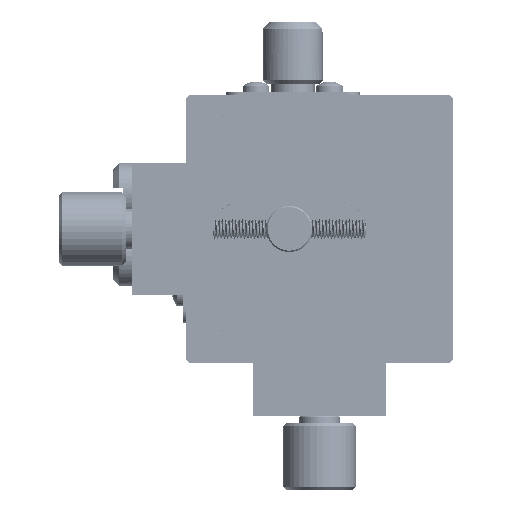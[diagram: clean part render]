
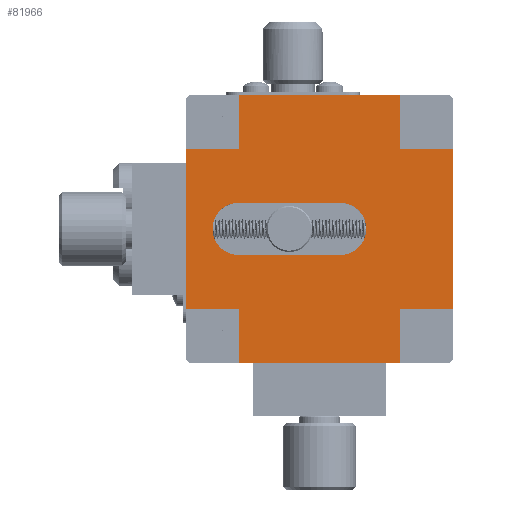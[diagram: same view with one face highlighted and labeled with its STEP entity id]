
A CAD part, top view. The second image highlights one B-rep face of the part: STEP entity #81966.
In plain terms, the highlighted planar face has unit normal (0, 0, 1).
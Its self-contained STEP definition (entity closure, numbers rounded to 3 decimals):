
#1501 = LINE ( 'NONE', #83391, #125231 ) ;
#1696 = CARTESIAN_POINT ( 'NONE',  ( -0.002, -7.998, 49.8 ) ) ;
#3234 = CARTESIAN_POINT ( 'NONE',  ( -0.002, 24.002, 49.8 ) ) ;
#3351 = VERTEX_POINT ( 'NONE', #1696 ) ;
#3579 = EDGE_CURVE ( 'NONE', #40850, #25289, #97537, .T. ) ;
#4393 = VECTOR ( 'NONE', #76893, 1000. ) ;
#4991 = CARTESIAN_POINT ( 'NONE',  ( 7.998, -15.998, 49.8 ) ) ;
#7114 = EDGE_CURVE ( 'NONE', #89400, #15368, #40768, .T. ) ;
#7616 = CARTESIAN_POINT ( 'NONE',  ( 31.998, 16.002, 49.8 ) ) ;
#8713 = EDGE_CURVE ( 'NONE', #25289, #3351, #26919, .T. ) ;
#9081 = CARTESIAN_POINT ( 'NONE',  ( 39.998, 24.002, 49.8 ) ) ;
#9319 = ORIENTED_EDGE ( 'NONE', *, *, #46940, .F. ) ;
#9419 = ORIENTED_EDGE ( 'NONE', *, *, #122428, .T. ) ;
#9730 = DIRECTION ( 'NONE',  ( 0., 0., -1. ) ) ;
#10308 = VECTOR ( 'NONE', #15166, 1000. ) ;
#10632 = EDGE_CURVE ( 'NONE', #102463, #67869, #66412, .T. ) ;
#14471 = ORIENTED_EDGE ( 'NONE', *, *, #80761, .F. ) ;
#15166 = DIRECTION ( 'NONE',  ( -1., 0., 0. ) ) ;
#15368 = VERTEX_POINT ( 'NONE', #124596 ) ;
#15424 = VECTOR ( 'NONE', #116618, 1000. ) ;
#15783 = DIRECTION ( 'NONE',  ( 0., -1., 0. ) ) ;
#15828 = CARTESIAN_POINT ( 'NONE',  ( 39.998, 24.002, 49.8 ) ) ;
#17068 = VECTOR ( 'NONE', #83078, 1000. ) ;
#18305 = VERTEX_POINT ( 'NONE', #100434 ) ;
#18686 = LINE ( 'NONE', #59269, #60367 ) ;
#20168 = CARTESIAN_POINT ( 'NONE',  ( 7.898, 4.002, 49.8 ) ) ;
#20601 = CIRCLE ( 'NONE', #82275, 3.9 ) ;
#21106 = VERTEX_POINT ( 'NONE', #51292 ) ;
#23472 = CARTESIAN_POINT ( 'NONE',  ( 31.998, -15.998, 49.8 ) ) ;
#24720 = EDGE_CURVE ( 'NONE', #120696, #89400, #73679, .T. ) ;
#25289 = VERTEX_POINT ( 'NONE', #93510 ) ;
#25357 = EDGE_CURVE ( 'NONE', #15368, #96908, #112171, .T. ) ;
#25616 = CARTESIAN_POINT ( 'NONE',  ( 7.998, 16.002, 49.8 ) ) ;
#26535 = LINE ( 'NONE', #67148, #89945 ) ;
#26919 = LINE ( 'NONE', #67534, #90874 ) ;
#28297 = PLANE ( 'NONE',  #91990 ) ;
#29115 = CARTESIAN_POINT ( 'NONE',  ( 39.998, -7.998, 49.8 ) ) ;
#32214 = AXIS2_PLACEMENT_3D ( 'NONE', #20168, #101387, #50779 ) ;
#32932 = LINE ( 'NONE', #73552, #15424 ) ;
#36574 = ORIENTED_EDGE ( 'NONE', *, *, #117374, .F. ) ;
#37157 = CARTESIAN_POINT ( 'NONE',  ( 7.998, 24.002, 49.8 ) ) ;
#40768 = CIRCLE ( 'NONE', #32214, 3.9 ) ;
#40807 = DIRECTION ( 'NONE',  ( 0., -1., 0. ) ) ;
#40850 = VERTEX_POINT ( 'NONE', #119068 ) ;
#41593 = CARTESIAN_POINT ( 'NONE',  ( 23.098, 7.902, 49.8 ) ) ;
#43617 = ORIENTED_EDGE ( 'NONE', *, *, #98254, .T. ) ;
#43814 = LINE ( 'NONE', #3234, #118854 ) ;
#45385 = VERTEX_POINT ( 'NONE', #23472 ) ;
#46570 = ORIENTED_EDGE ( 'NONE', *, *, #102817, .F. ) ;
#46940 = EDGE_CURVE ( 'NONE', #116066, #21106, #124350, .T. ) ;
#48352 = ORIENTED_EDGE ( 'NONE', *, *, #85371, .F. ) ;
#49004 = LINE ( 'NONE', #9081, #102141 ) ;
#50779 = DIRECTION ( 'NONE',  ( -1., 0., 0. ) ) ;
#51292 = CARTESIAN_POINT ( 'NONE',  ( 31.998, -7.998, 49.8 ) ) ;
#53187 = DIRECTION ( 'NONE',  ( 0., -1., 0. ) ) ;
#56222 = EDGE_CURVE ( 'NONE', #40850, #45385, #18686, .T. ) ;
#56561 = ORIENTED_EDGE ( 'NONE', *, *, #25357, .T. ) ;
#58915 = CARTESIAN_POINT ( 'NONE',  ( 23.098, 7.902, 49.8 ) ) ;
#59269 = CARTESIAN_POINT ( 'NONE',  ( 39.998, -15.998, 49.8 ) ) ;
#59712 = VERTEX_POINT ( 'NONE', #25616 ) ;
#60367 = VECTOR ( 'NONE', #121163, 1000. ) ;
#61027 = ORIENTED_EDGE ( 'NONE', *, *, #107778, .T. ) ;
#63994 = ORIENTED_EDGE ( 'NONE', *, *, #8713, .F. ) ;
#66363 = LINE ( 'NONE', #67027, #114483 ) ;
#66412 = LINE ( 'NONE', #15828, #10308 ) ;
#67027 = CARTESIAN_POINT ( 'NONE',  ( 31.998, -15.998, 49.8 ) ) ;
#67148 = CARTESIAN_POINT ( 'NONE',  ( 39.998, 16.002, 49.8 ) ) ;
#67534 = CARTESIAN_POINT ( 'NONE',  ( -0.002, -7.998, 49.8 ) ) ;
#67708 = VERTEX_POINT ( 'NONE', #109291 ) ;
#67869 = VERTEX_POINT ( 'NONE', #105175 ) ;
#68701 = EDGE_LOOP ( 'NONE', ( #88424, #48352, #14471, #61027, #63994, #87846, #100374, #76279, #9319, #9419, #36574, #46570 ) ) ;
#68921 = CARTESIAN_POINT ( 'NONE',  ( 19.998, 4.002, 49.8 ) ) ;
#73079 = VECTOR ( 'NONE', #77761, 1000. ) ;
#73552 = CARTESIAN_POINT ( 'NONE',  ( -0.002, 16.002, 49.8 ) ) ;
#73679 = LINE ( 'NONE', #124292, #127019 ) ;
#73776 = EDGE_LOOP ( 'NONE', ( #43617, #121562, #74516, #56561 ) ) ;
#74516 = ORIENTED_EDGE ( 'NONE', *, *, #7114, .T. ) ;
#75666 = CARTESIAN_POINT ( 'NONE',  ( 23.098, 0.102, 49.8 ) ) ;
#76279 = ORIENTED_EDGE ( 'NONE', *, *, #101701, .F. ) ;
#76893 = DIRECTION ( 'NONE',  ( 0., 1., 0. ) ) ;
#77761 = DIRECTION ( 'NONE',  ( 0., 1., 0. ) ) ;
#80761 = EDGE_CURVE ( 'NONE', #18305, #59712, #32932, .T. ) ;
#81966 = ADVANCED_FACE ( 'NONE', ( #98889, #119491 ), #28297, .T. ) ;
#82242 = DIRECTION ( 'NONE',  ( -1., 0., 0. ) ) ;
#82275 = AXIS2_PLACEMENT_3D ( 'NONE', #123519, #9730, #82242 ) ;
#83078 = DIRECTION ( 'NONE',  ( -1., 0., 0. ) ) ;
#83391 = CARTESIAN_POINT ( 'NONE',  ( 31.998, 24.002, 49.8 ) ) ;
#85371 = EDGE_CURVE ( 'NONE', #59712, #67869, #89708, .T. ) ;
#87846 = ORIENTED_EDGE ( 'NONE', *, *, #3579, .F. ) ;
#88424 = ORIENTED_EDGE ( 'NONE', *, *, #10632, .T. ) ;
#88655 = VERTEX_POINT ( 'NONE', #7616 ) ;
#89400 = VERTEX_POINT ( 'NONE', #130452 ) ;
#89516 = DIRECTION ( 'NONE',  ( -1., 0., 0. ) ) ;
#89708 = LINE ( 'NONE', #37157, #73079 ) ;
#89945 = VECTOR ( 'NONE', #108431, 1000. ) ;
#90874 = VECTOR ( 'NONE', #128113, 1000. ) ;
#91990 = AXIS2_PLACEMENT_3D ( 'NONE', #68921, #109525, #89516 ) ;
#93510 = CARTESIAN_POINT ( 'NONE',  ( 7.998, -7.998, 49.8 ) ) ;
#96908 = VERTEX_POINT ( 'NONE', #58915 ) ;
#97098 = VECTOR ( 'NONE', #103516, 1000. ) ;
#97537 = LINE ( 'NONE', #4991, #4393 ) ;
#98254 = EDGE_CURVE ( 'NONE', #96908, #120696, #20601, .T. ) ;
#98889 = FACE_BOUND ( 'NONE', #73776, .T. ) ;
#100374 = ORIENTED_EDGE ( 'NONE', *, *, #56222, .T. ) ;
#100434 = CARTESIAN_POINT ( 'NONE',  ( -0.002, 16.002, 49.8 ) ) ;
#101387 = DIRECTION ( 'NONE',  ( 0., 0., -1. ) ) ;
#101701 = EDGE_CURVE ( 'NONE', #21106, #45385, #66363, .T. ) ;
#102141 = VECTOR ( 'NONE', #122853, 1000. ) ;
#102463 = VERTEX_POINT ( 'NONE', #117458 ) ;
#102817 = EDGE_CURVE ( 'NONE', #102463, #88655, #1501, .T. ) ;
#103516 = DIRECTION ( 'NONE',  ( 1., 0., 0. ) ) ;
#105175 = CARTESIAN_POINT ( 'NONE',  ( 7.998, 24.002, 49.8 ) ) ;
#107778 = EDGE_CURVE ( 'NONE', #18305, #3351, #43814, .T. ) ;
#108431 = DIRECTION ( 'NONE',  ( 1., 0., 0. ) ) ;
#109291 = CARTESIAN_POINT ( 'NONE',  ( 39.998, 16.002, 49.8 ) ) ;
#109525 = DIRECTION ( 'NONE',  ( 0., 0., 1. ) ) ;
#111684 = DIRECTION ( 'NONE',  ( -1., 0., 0. ) ) ;
#112171 = LINE ( 'NONE', #41593, #97098 ) ;
#114483 = VECTOR ( 'NONE', #15783, 1000. ) ;
#116066 = VERTEX_POINT ( 'NONE', #29115 ) ;
#116618 = DIRECTION ( 'NONE',  ( 1., 0., 0. ) ) ;
#117374 = EDGE_CURVE ( 'NONE', #88655, #67708, #26535, .T. ) ;
#117458 = CARTESIAN_POINT ( 'NONE',  ( 31.998, 24.002, 49.8 ) ) ;
#118854 = VECTOR ( 'NONE', #53187, 1000. ) ;
#119068 = CARTESIAN_POINT ( 'NONE',  ( 7.998, -15.998, 49.8 ) ) ;
#119491 = FACE_OUTER_BOUND ( 'NONE', #68701, .T. ) ;
#120696 = VERTEX_POINT ( 'NONE', #75666 ) ;
#121163 = DIRECTION ( 'NONE',  ( 1., 0., 0. ) ) ;
#121562 = ORIENTED_EDGE ( 'NONE', *, *, #24720, .T. ) ;
#122428 = EDGE_CURVE ( 'NONE', #116066, #67708, #49004, .T. ) ;
#122853 = DIRECTION ( 'NONE',  ( 0., 1., 0. ) ) ;
#123030 = CARTESIAN_POINT ( 'NONE',  ( 39.998, -7.998, 49.8 ) ) ;
#123519 = CARTESIAN_POINT ( 'NONE',  ( 23.098, 4.002, 49.8 ) ) ;
#124292 = CARTESIAN_POINT ( 'NONE',  ( 23.098, 0.102, 49.8 ) ) ;
#124350 = LINE ( 'NONE', #123030, #17068 ) ;
#124596 = CARTESIAN_POINT ( 'NONE',  ( 7.898, 7.902, 49.8 ) ) ;
#125231 = VECTOR ( 'NONE', #40807, 1000. ) ;
#127019 = VECTOR ( 'NONE', #111684, 1000. ) ;
#128113 = DIRECTION ( 'NONE',  ( -1., 0., 0. ) ) ;
#130452 = CARTESIAN_POINT ( 'NONE',  ( 7.898, 0.102, 49.8 ) ) ;
